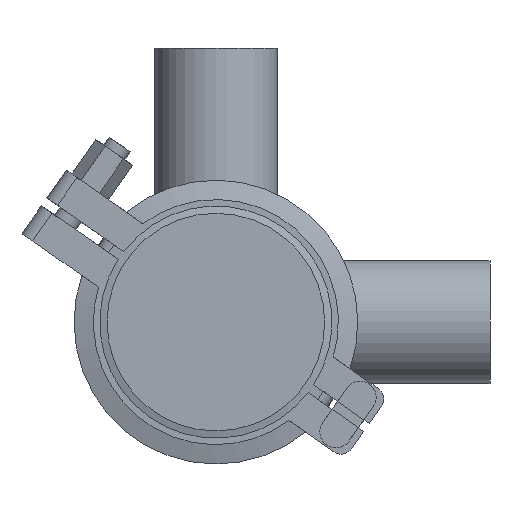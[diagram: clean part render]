
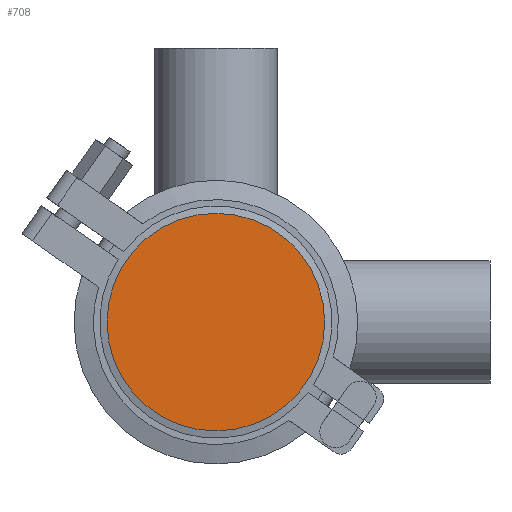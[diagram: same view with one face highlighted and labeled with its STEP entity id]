
A CAD part, front view. The second image highlights one B-rep face of the part: STEP entity #708.
In plain terms, the highlighted planar face has unit normal (0, -1, 0).
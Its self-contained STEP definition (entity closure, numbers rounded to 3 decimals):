
#708 = ADVANCED_FACE ( 'NONE', ( #5054 ), #3325, .T. ) ;
#1491 = CARTESIAN_POINT ( 'NONE',  ( 0., 0., 0. ) ) ;
#1953 = EDGE_LOOP ( 'NONE', ( #8334 ) ) ;
#2221 = DIRECTION ( 'NONE',  ( 0., -1., 0. ) ) ;
#3325 = PLANE ( 'NONE',  #8925 ) ;
#3427 = CARTESIAN_POINT ( 'NONE',  ( -33.75, 0., 0. ) ) ;
#3772 = VERTEX_POINT ( 'NONE', #14728 ) ;
#5054 = FACE_OUTER_BOUND ( 'NONE', #1953, .T. ) ;
#8312 = EDGE_CURVE ( 'NONE', #3772, #3772, #11923, .T. ) ;
#8334 = ORIENTED_EDGE ( 'NONE', *, *, #8312, .F. ) ;
#8925 = AXIS2_PLACEMENT_3D ( 'NONE', #3427, #2221, #11117 ) ;
#11117 = DIRECTION ( 'NONE',  ( 0., 0., -1. ) ) ;
#11923 = CIRCLE ( 'NONE', #19024, 33.75 ) ;
#14728 = CARTESIAN_POINT ( 'NONE',  ( 0., 0., 33.75 ) ) ;
#18394 = DIRECTION ( 'NONE',  ( 0., 0., 1. ) ) ;
#18582 = DIRECTION ( 'NONE',  ( 0., 1., 0. ) ) ;
#19024 = AXIS2_PLACEMENT_3D ( 'NONE', #1491, #18582, #18394 ) ;
